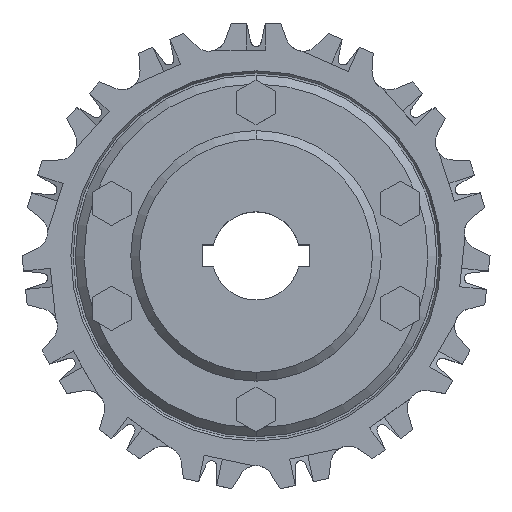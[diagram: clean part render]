
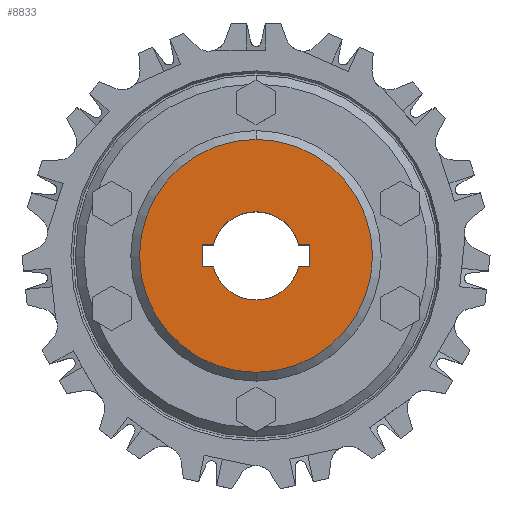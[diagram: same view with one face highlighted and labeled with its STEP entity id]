
A CAD part, top view. The second image highlights one B-rep face of the part: STEP entity #8833.
In plain terms, the highlighted planar face has unit normal (0, 0, 1) as drawn and (0, 1, 0) by its records, which use the part's own axes.
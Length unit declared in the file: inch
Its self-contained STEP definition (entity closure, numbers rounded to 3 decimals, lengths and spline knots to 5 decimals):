
#8354=CARTESIAN_POINT('',(0.,0.335,0.));
#8355=DIRECTION('',(0.,1.,0.));
#8356=DIRECTION('',(-1.,0.,0.));
#8357=AXIS2_PLACEMENT_3D('',#8354,#8355,#8356);
#8372=DIRECTION('',(0.,0.,-1.));
#8373=VECTOR('',#8372,0.125);
#8374=CARTESIAN_POINT('',(0.125,0.335,0.60912));
#8375=LINE('',#8374,#8373);
#8376=CARTESIAN_POINT('',(0.,0.335,0.));
#8377=DIRECTION('',(0.,1.,0.));
#8378=DIRECTION('',(0.25,0.,0.968));
#8379=AXIS2_PLACEMENT_3D('',#8376,#8377,#8378);
#8381=DIRECTION('',(0.,0.,-1.));
#8382=VECTOR('',#8381,0.125);
#8383=CARTESIAN_POINT('',(0.125,0.335,-0.48412));
#8384=LINE('',#8383,#8382);
#8385=DIRECTION('',(-1.,0.,0.));
#8386=VECTOR('',#8385,0.25);
#8387=CARTESIAN_POINT('',(0.125,0.335,-0.60912));
#8388=LINE('',#8387,#8386);
#8389=DIRECTION('',(0.,0.,1.));
#8390=VECTOR('',#8389,0.125);
#8391=CARTESIAN_POINT('',(-0.125,0.335,-0.60912));
#8392=LINE('',#8391,#8390);
#8393=CARTESIAN_POINT('',(0.,0.335,0.));
#8394=DIRECTION('',(0.,1.,0.));
#8395=DIRECTION('',(-0.25,0.,-0.968));
#8396=AXIS2_PLACEMENT_3D('',#8393,#8394,#8395);
#8398=DIRECTION('',(0.,0.,1.));
#8399=VECTOR('',#8398,0.125);
#8400=CARTESIAN_POINT('',(-0.125,0.335,0.48412));
#8401=LINE('',#8400,#8399);
#8402=DIRECTION('',(1.,0.,0.));
#8403=VECTOR('',#8402,0.25);
#8404=CARTESIAN_POINT('',(-0.125,0.335,0.60912));
#8405=LINE('',#8404,#8403);
#8406=CARTESIAN_POINT('',(0.,0.335,0.));
#8407=DIRECTION('',(0.,1.,0.));
#8408=DIRECTION('',(1.,0.,0.));
#8409=AXIS2_PLACEMENT_3D('',#8406,#8407,#8408);
#8586=CARTESIAN_POINT('',(1.3205,0.335,0.));
#8587=CARTESIAN_POINT('',(-1.3205,0.335,0.));
#8588=VERTEX_POINT('',#8586);
#8589=VERTEX_POINT('',#8587);
#8610=CARTESIAN_POINT('',(0.125,0.335,0.60912));
#8611=CARTESIAN_POINT('',(0.125,0.335,0.48412));
#8612=VERTEX_POINT('',#8610);
#8613=VERTEX_POINT('',#8611);
#8614=CARTESIAN_POINT('',(0.125,0.335,-0.48412));
#8615=VERTEX_POINT('',#8614);
#8616=CARTESIAN_POINT('',(0.125,0.335,-0.60912));
#8617=VERTEX_POINT('',#8616);
#8618=CARTESIAN_POINT('',(-0.125,0.335,-0.60912));
#8619=VERTEX_POINT('',#8618);
#8620=CARTESIAN_POINT('',(-0.125,0.335,-0.48412));
#8621=VERTEX_POINT('',#8620);
#8622=CARTESIAN_POINT('',(-0.125,0.335,0.48412));
#8623=VERTEX_POINT('',#8622);
#8624=CARTESIAN_POINT('',(-0.125,0.335,0.60912));
#8625=VERTEX_POINT('',#8624);
#8805=CARTESIAN_POINT('',(0.,0.335,0.));
#8806=DIRECTION('',(0.,1.,0.));
#8807=DIRECTION('',(1.,0.,0.));
#8808=AXIS2_PLACEMENT_3D('',#8805,#8806,#8807);
#8809=PLANE('',#8808);
#8810=ORIENTED_EDGE('',*,*,#8795,.F.);
#8812=ORIENTED_EDGE('',*,*,#8811,.F.);
#8813=EDGE_LOOP('',(#8810,#8812));
#8814=FACE_OUTER_BOUND('',#8813,.F.);
#8816=ORIENTED_EDGE('',*,*,#8815,.T.);
#8818=ORIENTED_EDGE('',*,*,#8817,.T.);
#8820=ORIENTED_EDGE('',*,*,#8819,.T.);
#8822=ORIENTED_EDGE('',*,*,#8821,.T.);
#8824=ORIENTED_EDGE('',*,*,#8823,.T.);
#8826=ORIENTED_EDGE('',*,*,#8825,.T.);
#8828=ORIENTED_EDGE('',*,*,#8827,.T.);
#8830=ORIENTED_EDGE('',*,*,#8829,.T.);
#8831=EDGE_LOOP('',(#8816,#8818,#8820,#8822,#8824,#8826,#8828,#8830));
#8832=FACE_BOUND('',#8831,.F.);
#8833=ADVANCED_FACE('',(#8814,#8832),#8809,.T.);
#8358=CIRCLE('',#8357,1.3205);
#8380=CIRCLE('',#8379,0.5);
#8397=CIRCLE('',#8396,0.5);
#8410=CIRCLE('',#8409,1.3205);
#8795=EDGE_CURVE('',#8589,#8588,#8358,.T.);
#8811=EDGE_CURVE('',#8588,#8589,#8410,.T.);
#8815=EDGE_CURVE('',#8612,#8613,#8375,.T.);
#8817=EDGE_CURVE('',#8613,#8615,#8380,.T.);
#8819=EDGE_CURVE('',#8615,#8617,#8384,.T.);
#8821=EDGE_CURVE('',#8617,#8619,#8388,.T.);
#8823=EDGE_CURVE('',#8619,#8621,#8392,.T.);
#8825=EDGE_CURVE('',#8621,#8623,#8397,.T.);
#8827=EDGE_CURVE('',#8623,#8625,#8401,.T.);
#8829=EDGE_CURVE('',#8625,#8612,#8405,.T.);
